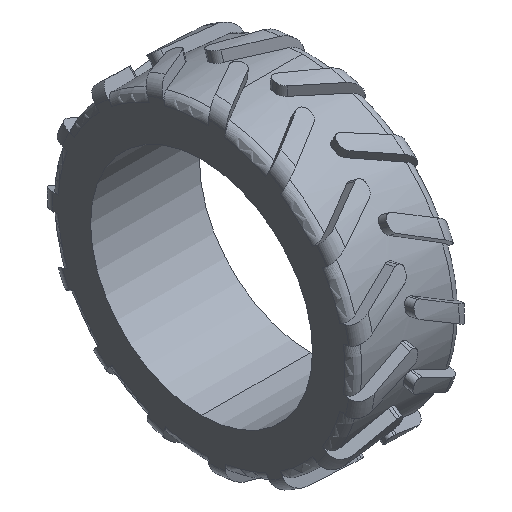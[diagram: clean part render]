
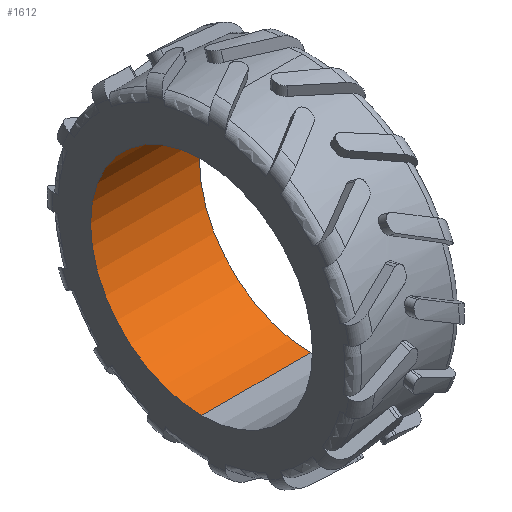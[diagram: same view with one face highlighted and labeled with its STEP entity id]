
A CAD part, isometric view. The second image highlights one B-rep face of the part: STEP entity #1612.
In plain terms, the highlighted cylindrical face has radius 26.5 mm (diameter 53 mm), a partial arc.
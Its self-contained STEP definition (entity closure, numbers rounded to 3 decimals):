
#376 = CARTESIAN_POINT ( 'NONE',  ( 0., 0., 0. ) ) ;
#606 = CARTESIAN_POINT ( 'NONE',  ( 26., 0., 0. ) ) ;
#994 = VECTOR ( 'NONE', #6329, 1000. ) ;
#1064 = LINE ( 'NONE', #8715, #7856 ) ;
#1103 = ORIENTED_EDGE ( 'NONE', *, *, #11527, .T. ) ;
#1612 = ADVANCED_FACE ( 'NONE', ( #10351 ), #2516, .F. ) ;
#2065 = DIRECTION ( 'NONE',  ( 0., 0., -1. ) ) ;
#2298 = DIRECTION ( 'NONE',  ( 1., 0., 0. ) ) ;
#2516 = CYLINDRICAL_SURFACE ( 'NONE', #3294, 26.5 ) ;
#2603 = VERTEX_POINT ( 'NONE', #11206 ) ;
#2620 = EDGE_CURVE ( 'NONE', #7538, #8891, #5526, .T. ) ;
#3294 = AXIS2_PLACEMENT_3D ( 'NONE', #606, #8336, #12181 ) ;
#3660 = ORIENTED_EDGE ( 'NONE', *, *, #4593, .F. ) ;
#3690 = AXIS2_PLACEMENT_3D ( 'NONE', #376, #2298, #11024 ) ;
#4017 = EDGE_CURVE ( 'NONE', #7538, #6535, #9860, .T. ) ;
#4431 = EDGE_LOOP ( 'NONE', ( #5780, #8108, #1103, #3660 ) ) ;
#4593 = EDGE_CURVE ( 'NONE', #8891, #2603, #11223, .T. ) ;
#5526 = LINE ( 'NONE', #7300, #994 ) ;
#5780 = ORIENTED_EDGE ( 'NONE', *, *, #2620, .F. ) ;
#6329 = DIRECTION ( 'NONE',  ( -1., 0., 0. ) ) ;
#6404 = CARTESIAN_POINT ( 'NONE',  ( 26., 0., 26.5 ) ) ;
#6535 = VERTEX_POINT ( 'NONE', #6404 ) ;
#7300 = CARTESIAN_POINT ( 'NONE',  ( 26., 0., -26.5 ) ) ;
#7538 = VERTEX_POINT ( 'NONE', #8346 ) ;
#7659 = DIRECTION ( 'NONE',  ( -1., 0., 0. ) ) ;
#7824 = DIRECTION ( 'NONE',  ( 1., 0., 0. ) ) ;
#7856 = VECTOR ( 'NONE', #7659, 1000. ) ;
#7860 = CARTESIAN_POINT ( 'NONE',  ( 26., 0., 0. ) ) ;
#8108 = ORIENTED_EDGE ( 'NONE', *, *, #4017, .T. ) ;
#8336 = DIRECTION ( 'NONE',  ( -1., 0., 0. ) ) ;
#8346 = CARTESIAN_POINT ( 'NONE',  ( 26., 0., -26.5 ) ) ;
#8715 = CARTESIAN_POINT ( 'NONE',  ( 26., 0., 26.5 ) ) ;
#8891 = VERTEX_POINT ( 'NONE', #9139 ) ;
#9139 = CARTESIAN_POINT ( 'NONE',  ( 0., 0., -26.5 ) ) ;
#9860 = CIRCLE ( 'NONE', #10874, 26.5 ) ;
#10351 = FACE_OUTER_BOUND ( 'NONE', #4431, .T. ) ;
#10874 = AXIS2_PLACEMENT_3D ( 'NONE', #7860, #7824, #2065 ) ;
#11024 = DIRECTION ( 'NONE',  ( 0., 0., -1. ) ) ;
#11206 = CARTESIAN_POINT ( 'NONE',  ( 0., 0., 26.5 ) ) ;
#11223 = CIRCLE ( 'NONE', #3690, 26.5 ) ;
#11527 = EDGE_CURVE ( 'NONE', #6535, #2603, #1064, .T. ) ;
#12181 = DIRECTION ( 'NONE',  ( 0., 0., 1. ) ) ;
